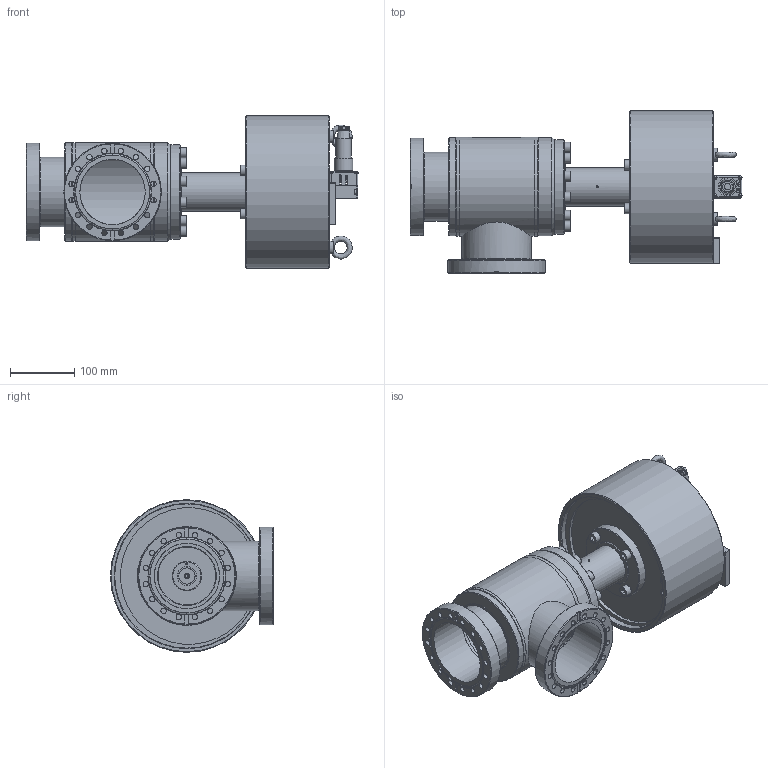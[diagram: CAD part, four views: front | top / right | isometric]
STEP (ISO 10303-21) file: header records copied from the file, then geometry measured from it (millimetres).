
FILE_DESCRIPTION(/* description */ (''),/* implementation_level */ '2;1');
FILE_NAME(/* name */ '1117213248_203.stp',/* time_stamp */ '2019-11-27T11:57:15+01:00',/* author */ (''),/* organization */ (''),/* preprocessor_version */ 'ST-DEVELOPER v16',/* originating_system */ 'SIEMENS PLM Software NX 11.0',/* authorisation */ '');
FILE_SCHEMA (('AP203_CONFIGURATION_CONTROLLED_3D_DESIGN_OF_MECHANICAL_PARTS_AND_ASSEMBLIES_MIM_LF { 1 0 10303 403 2 1 2}'));
Length unit declared in the file: millimetre
Products named in the file (29): 93697-01; 93705-01; 434944_25836ID; 434943_25838ID; 434948; 434958_25727ID; n-6013-463; 81428-01; n-5019-839; 352149; n-6033-403; n-6203-225; n-5054-079; n-6203-014; n-6203-015; n-6162-404; 72238-01; 72236-01; n-6016-503; n-6024-531; 69672-01; n-8504-002; 219123_2; 231935_1; 231125_2; 232828; 232827; 434961_MODEL; 371596
Assembly tree (50 placements, depth 3):
  371596
    232827
    232828
    231125_2
    231935_1
    219123_2
    n-8504-002
    69672-01
    n-6024-531  x4
    n-6016-503  x2
    72236-01
    72238-01
    n-6162-404  x2
    n-6203-015
    n-6203-014
    n-5054-079
    n-6203-225
    n-6033-403  x2
    352149  x4
    n-5019-839  x12
    81428-01
    n-6013-463  x2
    434961_MODEL
      434958_25727ID
      434948
      434943_25838ID
      434944_25836ID
      93705-01  x2
      93697-01
Bounding box: 517.75 x 254.05 x 238 mm (x, y, z)
Volume: 4645990.5 mm3; surface area: 971305.6 mm2
Topology: 85 solids, 85 shells, 1545 faces, 3799 edges, 2589 vertices
Faces by surface type: plane 869, cylinder 421, cone 126, extrusion 84, bspline 24, torus 17, sphere 4
Full cylindrical faces by diameter (mm): 1.2 x2, 1.4 x2, 1.66 x7, 1.95 x4, 2.25 x4, 2.7 x4, 3 x6, 3.15 x1, 3.26 x2, 3.3 x4, 3.4 x4, 4 x6, 4.2 x2, 4.3 x2, 4.4 x2, 5 x6, 5.4 x2, 6 x10, 6.8 x2, 8 x4, 8.36 x16, 8.4 x48, 8.5 x12, 8.55 x1, 8.566 x2, 9.2 x2, 10 x34, 10.5 x4, 10.8 x16, 11.95 x4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
Entity records: 46031 total; most frequent: CARTESIAN_POINT 15492, ORIENTED_EDGE 5084, DIRECTION 4629, EDGE_CURVE 2542, VERTEX_POINT 1955, AXIS2_PLACEMENT_3D 1776, EDGE_LOOP 1754, ADVANCED_FACE 1142
